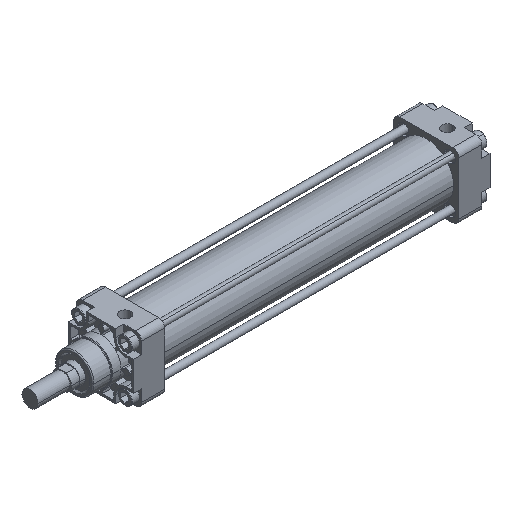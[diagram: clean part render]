
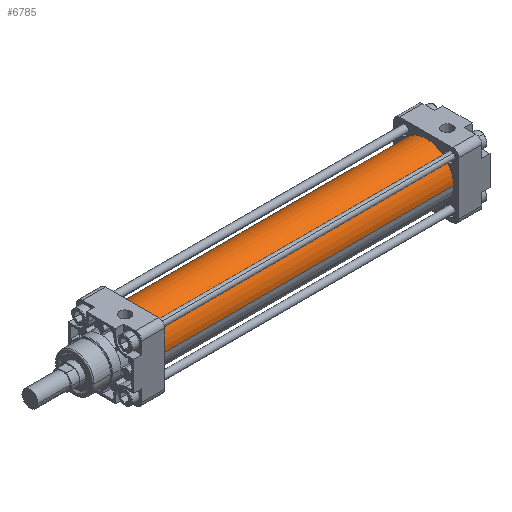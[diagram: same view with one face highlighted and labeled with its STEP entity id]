
A CAD part, isometric view. The second image highlights one B-rep face of the part: STEP entity #6785.
In plain terms, the highlighted cylindrical face has radius 27 mm (diameter 54 mm), a partial arc.
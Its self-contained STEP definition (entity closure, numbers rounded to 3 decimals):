
#6439=CARTESIAN_POINT('Vertex',(294.,-27.,0.)) ;
#6441=CARTESIAN_POINT('Vertex',(294.,27.,0.)) ;
#6444=CARTESIAN_POINT('Axis2P3D Location',(294.,0.,0.)) ;
#6755=CARTESIAN_POINT('Axis2P3D Location',(147.,0.,0.)) ;
#6760=CARTESIAN_POINT('Line Origine',(147.,27.,0.)) ;
#6764=CARTESIAN_POINT('Vertex',(0.,27.,0.)) ;
#6767=CARTESIAN_POINT('Axis2P3D Location',(0.,0.,0.)) ;
#6771=CARTESIAN_POINT('Vertex',(0.,-27.,0.)) ;
#6774=CARTESIAN_POINT('Line Origine',(147.,-27.,0.)) ;
#6445=DIRECTION('Axis2P3D Direction',(1.,0.,0.)) ;
#6756=DIRECTION('Axis2P3D Direction',(1.,0.,0.)) ;
#6757=DIRECTION('Axis2P3D XDirection',(0.,1.,0.)) ;
#6761=DIRECTION('Vector Direction',(1.,0.,0.)) ;
#6768=DIRECTION('Axis2P3D Direction',(1.,0.,0.)) ;
#6775=DIRECTION('Vector Direction',(1.,0.,0.)) ;
#6446=AXIS2_PLACEMENT_3D('Circle Axis2P3D',#6444,#6445,$) ;
#6758=AXIS2_PLACEMENT_3D('Cylinder Axis2P3D',#6755,#6756,#6757) ;
#6769=AXIS2_PLACEMENT_3D('Circle Axis2P3D',#6767,#6768,$) ;
#6780=ORIENTED_EDGE('',*,*,#6766,.F.) ;
#6781=ORIENTED_EDGE('',*,*,#6773,.T.) ;
#6782=ORIENTED_EDGE('',*,*,#6778,.T.) ;
#6783=ORIENTED_EDGE('',*,*,#6448,.F.) ;
#6762=VECTOR('Line Direction',#6761,1.) ;
#6776=VECTOR('Line Direction',#6775,1.) ;
#6785=ADVANCED_FACE('PartBody',(#6784),#6759,.T.) ;
#6447=CIRCLE('generated circle',#6446,27.) ;
#6770=CIRCLE('generated circle',#6769,27.) ;
#6759=CYLINDRICAL_SURFACE('generated cylinder',#6758,27.) ;
#6448=EDGE_CURVE('',#6442,#6440,#6447,.T.) ;
#6766=EDGE_CURVE('',#6765,#6442,#6763,.T.) ;
#6773=EDGE_CURVE('',#6765,#6772,#6770,.T.) ;
#6778=EDGE_CURVE('',#6772,#6440,#6777,.T.) ;
#6779=EDGE_LOOP('',(#6780,#6781,#6782,#6783)) ;
#6784=FACE_OUTER_BOUND('',#6779,.T.) ;
#6763=LINE('Line',#6760,#6762) ;
#6777=LINE('Line',#6774,#6776) ;
#6440=VERTEX_POINT('',#6439) ;
#6442=VERTEX_POINT('',#6441) ;
#6765=VERTEX_POINT('',#6764) ;
#6772=VERTEX_POINT('',#6771) ;
